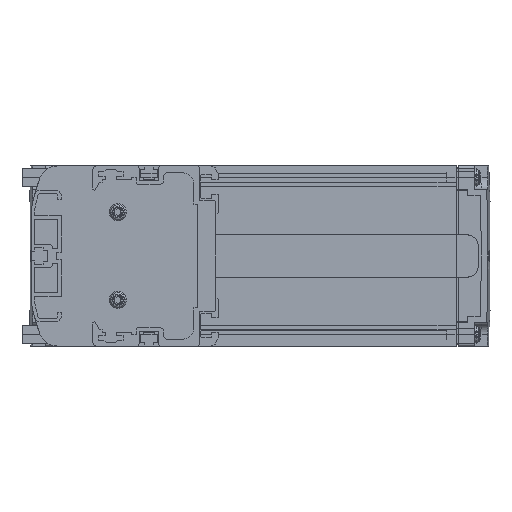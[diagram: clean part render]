
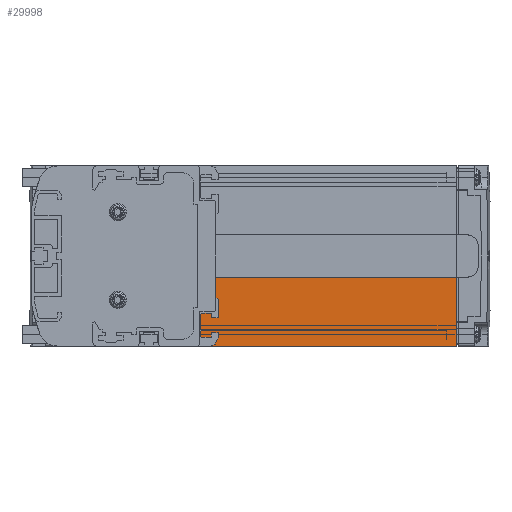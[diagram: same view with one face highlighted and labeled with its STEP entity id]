
A CAD part, left-side view. The second image highlights one B-rep face of the part: STEP entity #29998.
In plain terms, the highlighted planar face has unit normal (-1, 0, 0).
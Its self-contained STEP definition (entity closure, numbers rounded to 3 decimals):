
#3449=DIRECTION('',(0.,0.,1.));
#3450=VECTOR('',#3449,13.9);
#3451=CARTESIAN_POINT('',(3.,1.,-23.));
#3452=LINE('',#3451,#3450);
#4061=CARTESIAN_POINT('',(3.,2.,-23.));
#4062=DIRECTION('',(-1.,0.,0.));
#4063=DIRECTION('',(0.,0.,-1.));
#4064=AXIS2_PLACEMENT_3D('',#4061,#4062,#4063);
#4074=DIRECTION('',(0.,0.,1.));
#4075=VECTOR('',#4074,29.9);
#4076=CARTESIAN_POINT('',(3.,-103.,-39.));
#4077=LINE('',#4076,#4075);
#4094=DIRECTION('',(0.,1.,0.));
#4095=VECTOR('',#4094,104.);
#4096=CARTESIAN_POINT('',(3.,-103.,-9.1));
#4097=LINE('',#4096,#4095);
#8360=DIRECTION('',(0.,1.,0.));
#8361=VECTOR('',#8360,112.);
#8362=CARTESIAN_POINT('',(3.,-103.,-39.));
#8363=LINE('',#8362,#8361);
#9555=CARTESIAN_POINT('',(3.,9.,-38.));
#9556=DIRECTION('',(-1.,0.,0.));
#9557=DIRECTION('',(0.,0.,-1.));
#9558=AXIS2_PLACEMENT_3D('',#9555,#9556,#9557);
#9568=DIRECTION('',(0.,0.,-1.));
#9569=VECTOR('',#9568,14.);
#9570=CARTESIAN_POINT('',(3.,8.,-24.));
#9571=LINE('',#9570,#9569);
#9572=DIRECTION('',(0.,1.,0.));
#9573=VECTOR('',#9572,6.);
#9574=CARTESIAN_POINT('',(3.,2.,-24.));
#9575=LINE('',#9574,#9573);
#19602=CARTESIAN_POINT('',(3.,-103.,-39.));
#19603=VERTEX_POINT('',#19602);
#19604=CARTESIAN_POINT('',(3.,-103.,-9.1));
#19605=VERTEX_POINT('',#19604);
#23967=CARTESIAN_POINT('',(3.,1.,-23.));
#23968=CARTESIAN_POINT('',(3.,1.,-9.1));
#23969=VERTEX_POINT('',#23967);
#23970=VERTEX_POINT('',#23968);
#24015=CARTESIAN_POINT('',(3.,9.,-39.));
#24016=CARTESIAN_POINT('',(3.,8.,-38.));
#24017=VERTEX_POINT('',#24015);
#24018=VERTEX_POINT('',#24016);
#24019=CARTESIAN_POINT('',(3.,8.,-24.));
#24020=VERTEX_POINT('',#24019);
#24021=CARTESIAN_POINT('',(3.,2.,-24.));
#24022=VERTEX_POINT('',#24021);
#29977=CARTESIAN_POINT('',(3.,-18.,-24.05));
#29978=DIRECTION('',(1.,0.,0.));
#29979=DIRECTION('',(0.,0.,-1.));
#29980=AXIS2_PLACEMENT_3D('',#29977,#29978,#29979);
#29981=PLANE('',#29980);
#29982=ORIENTED_EDGE('',*,*,#27541,.T.);
#29984=ORIENTED_EDGE('',*,*,#29983,.F.);
#29986=ORIENTED_EDGE('',*,*,#29985,.F.);
#29988=ORIENTED_EDGE('',*,*,#29987,.T.);
#29990=ORIENTED_EDGE('',*,*,#29989,.T.);
#29992=ORIENTED_EDGE('',*,*,#29991,.F.);
#29994=ORIENTED_EDGE('',*,*,#29993,.F.);
#29995=ORIENTED_EDGE('',*,*,#29968,.T.);
#29996=EDGE_LOOP('',(#29982,#29984,#29986,#29988,#29990,#29992,#29994,#29995));
#29997=FACE_OUTER_BOUND('',#29996,.F.);
#29998=ADVANCED_FACE('',(#29997),#29981,.F.);
#4065=CIRCLE('',#4064,1.);
#9559=CIRCLE('',#9558,1.);
#27541=EDGE_CURVE('',#23969,#23970,#3452,.T.);
#29968=EDGE_CURVE('',#24022,#23969,#4065,.T.);
#29983=EDGE_CURVE('',#19605,#23970,#4097,.T.);
#29985=EDGE_CURVE('',#19603,#19605,#4077,.T.);
#29987=EDGE_CURVE('',#19603,#24017,#8363,.T.);
#29989=EDGE_CURVE('',#24017,#24018,#9559,.T.);
#29991=EDGE_CURVE('',#24020,#24018,#9571,.T.);
#29993=EDGE_CURVE('',#24022,#24020,#9575,.T.);
